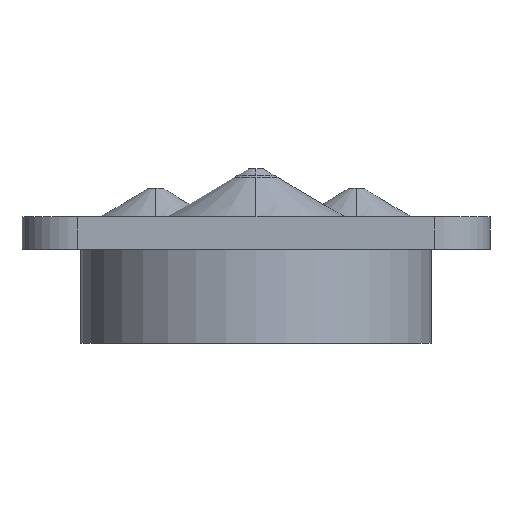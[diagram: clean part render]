
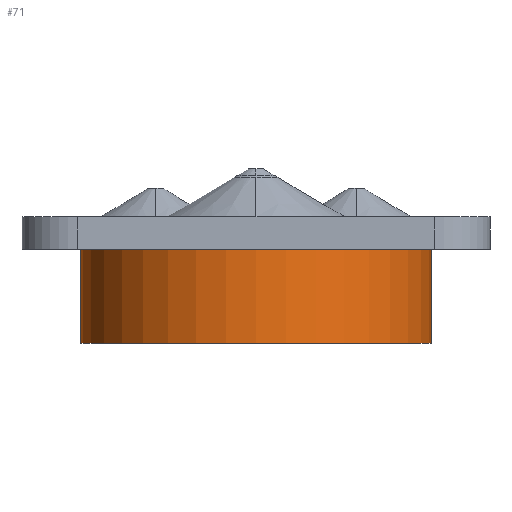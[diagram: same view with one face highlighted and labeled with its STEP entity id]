
A CAD part, left-side view. The second image highlights one B-rep face of the part: STEP entity #71.
In plain terms, the highlighted cylindrical face has radius 31.514 mm (diameter 63.028 mm), a partial arc.
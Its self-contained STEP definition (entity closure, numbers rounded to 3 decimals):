
#71 = ADVANCED_FACE ( 'NONE', ( #2852 ), #2744, .T. ) ;
#410 = CARTESIAN_POINT ( 'NONE',  ( -62.779, 0., -22.7 ) ) ;
#411 = DIRECTION ( 'NONE',  ( 0., 0., -1. ) ) ;
#412 = DIRECTION ( 'NONE',  ( -1., 0., 0. ) ) ;
#435 = CARTESIAN_POINT ( 'NONE',  ( -62.779, 31.514, -22.7 ) ) ;
#436 = DIRECTION ( 'NONE',  ( 0., 0., 1. ) ) ;
#443 = CARTESIAN_POINT ( 'NONE',  ( -62.779, 0., -5.8 ) ) ;
#444 = DIRECTION ( 'NONE',  ( 0., 0., -1. ) ) ;
#445 = DIRECTION ( 'NONE',  ( -1., 0., 0. ) ) ;
#455 = CARTESIAN_POINT ( 'NONE',  ( -62.779, -31.514, -22.7 ) ) ;
#456 = DIRECTION ( 'NONE',  ( 0., 0., 1. ) ) ;
#654 = CARTESIAN_POINT ( 'NONE',  ( -62.779, 31.514, -5.8 ) ) ;
#668 = CARTESIAN_POINT ( 'NONE',  ( -62.779, -31.514, -22.7 ) ) ;
#727 = CARTESIAN_POINT ( 'NONE',  ( -62.779, -31.514, -5.8 ) ) ;
#761 = CARTESIAN_POINT ( 'NONE',  ( -62.779, 31.514, -22.7 ) ) ;
#985 = AXIS2_PLACEMENT_3D ( 'NONE', #410, #411, #412 ) ;
#1025 = AXIS2_PLACEMENT_3D ( 'NONE', #443, #444, #445 ) ;
#1135 = CARTESIAN_POINT ( 'NONE',  ( -62.779, 0., -22.7 ) ) ;
#1263 = DIRECTION ( 'NONE',  ( 0., 0., 1. ) ) ;
#1273 = DIRECTION ( 'NONE',  ( 1., 0., 0. ) ) ;
#1455 = VECTOR ( 'NONE', #436, 1000. ) ;
#1478 = LINE ( 'NONE', #435, #1455 ) ;
#1479 = CIRCLE ( 'NONE', #985, 31.514 ) ;
#1528 = CIRCLE ( 'NONE', #1025, 31.514 ) ;
#1536 = VECTOR ( 'NONE', #456, 1000. ) ;
#1554 = LINE ( 'NONE', #455, #1536 ) ;
#2217 = EDGE_CURVE ( 'NONE', #2599, #3219, #1479, .T. ) ;
#2236 = AXIS2_PLACEMENT_3D ( 'NONE', #1135, #1263, #1273 ) ;
#2242 = EDGE_CURVE ( 'NONE', #3219, #2569, #1478, .T. ) ;
#2244 = EDGE_CURVE ( 'NONE', #2955, #2569, #1528, .T. ) ;
#2251 = EDGE_CURVE ( 'NONE', #2599, #2955, #1554, .T. ) ;
#2569 = VERTEX_POINT ( 'NONE', #654 ) ;
#2599 = VERTEX_POINT ( 'NONE', #668 ) ;
#2744 = CYLINDRICAL_SURFACE ( 'NONE', #2236, 31.514 ) ;
#2852 = FACE_OUTER_BOUND ( 'NONE', #3133, .T. ) ;
#2955 = VERTEX_POINT ( 'NONE', #727 ) ;
#3133 = EDGE_LOOP ( 'NONE', ( #3627, #3578, #3413, #3590 ) ) ;
#3219 = VERTEX_POINT ( 'NONE', #761 ) ;
#3413 = ORIENTED_EDGE ( 'NONE', *, *, #2217, .F. ) ;
#3578 = ORIENTED_EDGE ( 'NONE', *, *, #2242, .F. ) ;
#3590 = ORIENTED_EDGE ( 'NONE', *, *, #2251, .T. ) ;
#3627 = ORIENTED_EDGE ( 'NONE', *, *, #2244, .T. ) ;
